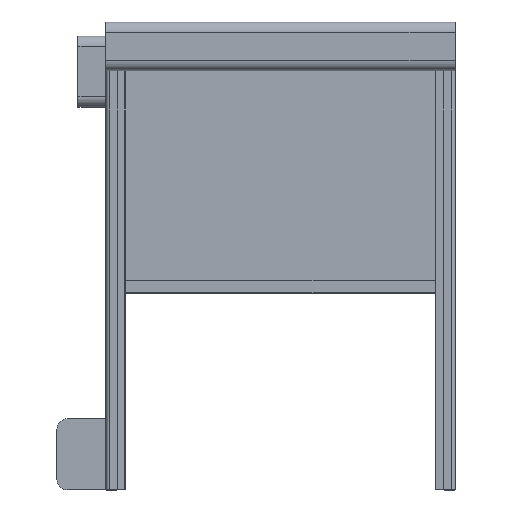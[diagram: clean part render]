
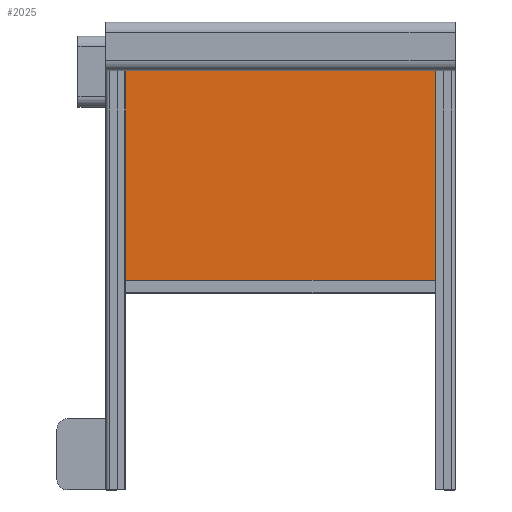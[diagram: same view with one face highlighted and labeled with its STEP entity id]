
A CAD part, top view. The second image highlights one B-rep face of the part: STEP entity #2025.
In plain terms, the highlighted planar face has unit normal (0, 0, 1).
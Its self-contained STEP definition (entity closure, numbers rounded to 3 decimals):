
#170 = ORIENTED_EDGE ( 'NONE', *, *, #1874, .T. ) ;
#212 = DIRECTION ( 'NONE',  ( -1., 0., 0. ) ) ;
#392 = FACE_OUTER_BOUND ( 'NONE', #1450, .T. ) ;
#442 = VECTOR ( 'NONE', #3372, 1000. ) ;
#678 = DIRECTION ( 'NONE',  ( 1., 0., 0. ) ) ;
#973 = EDGE_CURVE ( 'NONE', #1249, #1137, #1983, .T. ) ;
#1067 = CARTESIAN_POINT ( 'NONE',  ( 105.9, 3000., 349.5 ) ) ;
#1122 = CARTESIAN_POINT ( 'NONE',  ( 2394.1, 3000., 349.5 ) ) ;
#1137 = VERTEX_POINT ( 'NONE', #2918 ) ;
#1249 = VERTEX_POINT ( 'NONE', #1394 ) ;
#1394 = CARTESIAN_POINT ( 'NONE',  ( 105.9, 1500., 349.5 ) ) ;
#1450 = EDGE_LOOP ( 'NONE', ( #170, #2270, #1580, #3486 ) ) ;
#1580 = ORIENTED_EDGE ( 'NONE', *, *, #2404, .T. ) ;
#1874 = EDGE_CURVE ( 'NONE', #2038, #1249, #3797, .T. ) ;
#1887 = PLANE ( 'NONE',  #2569 ) ;
#1983 = LINE ( 'NONE', #2214, #2449 ) ;
#2025 = ADVANCED_FACE ( 'NONE', ( #392 ), #1887, .T. ) ;
#2038 = VERTEX_POINT ( 'NONE', #3044 ) ;
#2102 = VECTOR ( 'NONE', #2936, 1000. ) ;
#2214 = CARTESIAN_POINT ( 'NONE',  ( 105.9, 1500., 349.5 ) ) ;
#2227 = LINE ( 'NONE', #1067, #3082 ) ;
#2270 = ORIENTED_EDGE ( 'NONE', *, *, #973, .T. ) ;
#2404 = EDGE_CURVE ( 'NONE', #1137, #3294, #2757, .T. ) ;
#2447 = DIRECTION ( 'NONE',  ( 0., 0., 1. ) ) ;
#2449 = VECTOR ( 'NONE', #3407, 1000. ) ;
#2495 = CARTESIAN_POINT ( 'NONE',  ( 0., 0., 349.5 ) ) ;
#2569 = AXIS2_PLACEMENT_3D ( 'NONE', #2495, #2447, #678 ) ;
#2753 = EDGE_CURVE ( 'NONE', #3294, #2038, #2227, .T. ) ;
#2757 = LINE ( 'NONE', #1122, #2102 ) ;
#2918 = CARTESIAN_POINT ( 'NONE',  ( 2394.1, 1500., 349.5 ) ) ;
#2936 = DIRECTION ( 'NONE',  ( 0., 1., 0. ) ) ;
#3044 = CARTESIAN_POINT ( 'NONE',  ( 105.9, 3000., 349.5 ) ) ;
#3082 = VECTOR ( 'NONE', #212, 1000. ) ;
#3294 = VERTEX_POINT ( 'NONE', #3744 ) ;
#3372 = DIRECTION ( 'NONE',  ( 0., -1., 0. ) ) ;
#3407 = DIRECTION ( 'NONE',  ( 1., 0., 0. ) ) ;
#3486 = ORIENTED_EDGE ( 'NONE', *, *, #2753, .T. ) ;
#3646 = CARTESIAN_POINT ( 'NONE',  ( 105.9, 3000., 349.5 ) ) ;
#3744 = CARTESIAN_POINT ( 'NONE',  ( 2394.1, 3000., 349.5 ) ) ;
#3797 = LINE ( 'NONE', #3646, #442 ) ;
